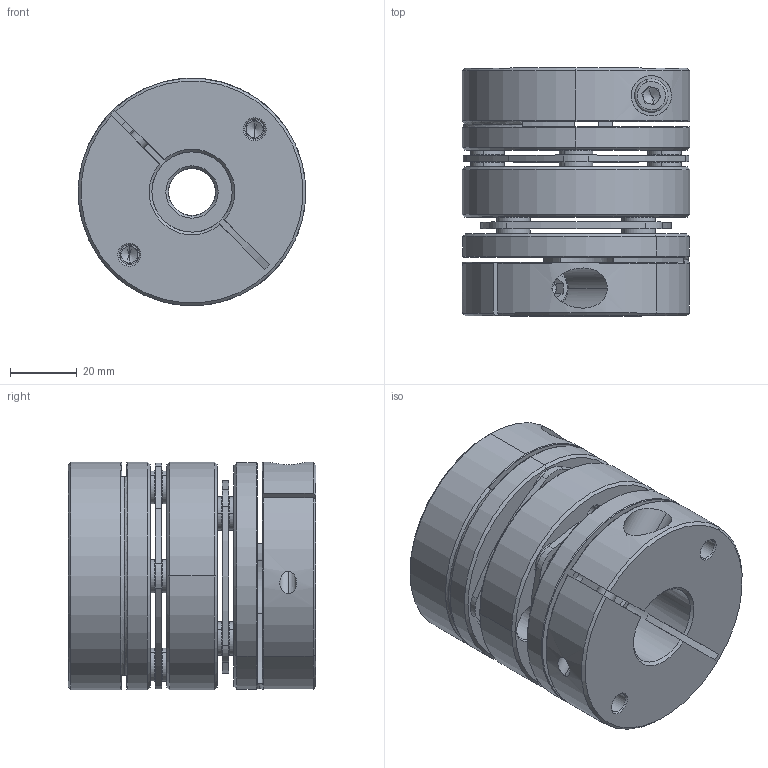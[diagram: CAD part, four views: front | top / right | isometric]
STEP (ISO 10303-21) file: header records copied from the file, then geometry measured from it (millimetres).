
FILE_DESCRIPTION (( 'STEP AP203' ), '1' );
FILE_NAME ('LD2-D68-14-24.STEP', '2021-10-26T08:13:08', ( '' ), ( '' ), 'SwSTEP 2.0', 'SolidWorks 2018', '' );
FILE_SCHEMA (( 'CONFIG_CONTROL_DESIGN' ));
Length unit declared in the file: millimetre
Products named in the file (2): LD2-D68-14-24; 錨璃102^LD2-D68
Assembly tree (1 placements, depth 2):
  LD2-D68-14-24
    錨璃102^LD2-D68
Bounding box: 68 x 74 x 68 mm (x, y, z)
Volume: 190235.4 mm3; surface area: 64697.9 mm2
Topology: 1 solids, 27 shells, 734 faces, 1712 edges, 1042 vertices
Faces by surface type: cylinder 256, cone 226, plane 222, torus 30
Entity records: 21554 total; most frequent: DIRECTION 4004, CARTESIAN_POINT 3937, ORIENTED_EDGE 3376, EDGE_CURVE 1688, AXIS2_PLACEMENT_3D 1625, VERTEX_POINT 1042, CIRCLE 887, EDGE_LOOP 870
